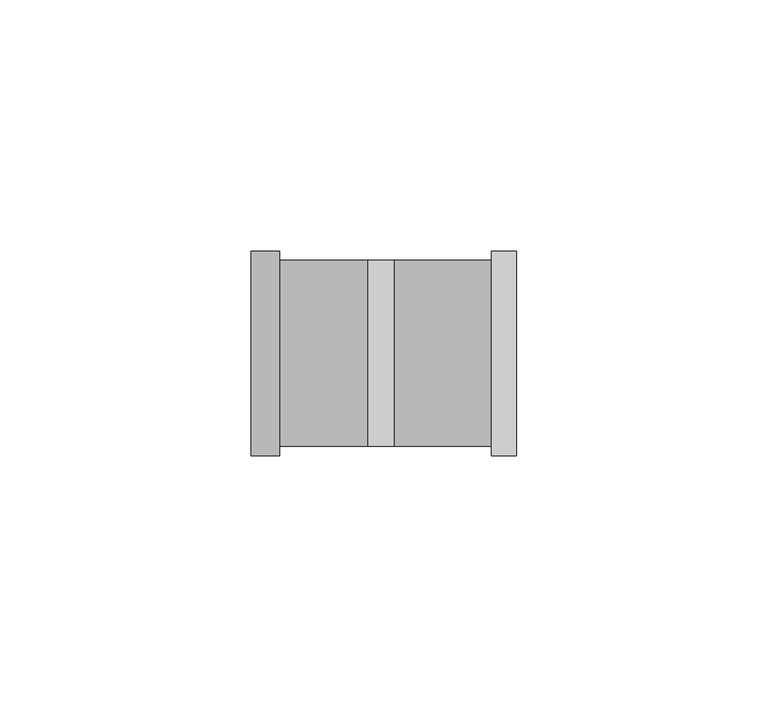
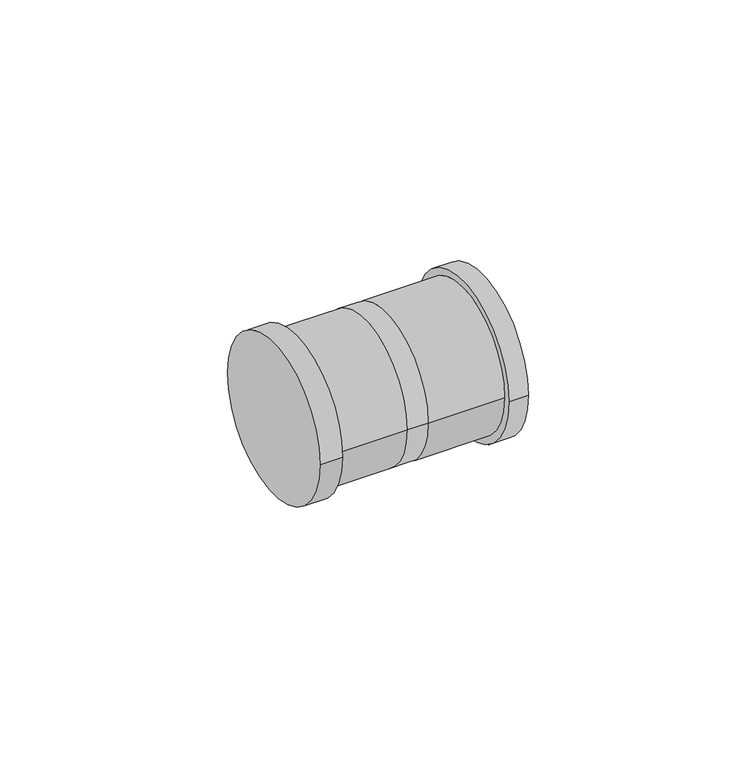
"""IFC4 building model written with IfcOpenShell, lengths in millimetres: pipe fitting geometry, Redutor de acoplamento - PVC - CW : Padrão."""

from ifc_helpers import new_model, si_unit, frame, origin, place, context, project, spatial, circle_curve, source, transform, mapped, element, save
from ifc_brep_helpers import plane_surface, cylinder_surface, advanced_brep


def pipe_fitting_36148165(model_context):
    return source(origin(), model_context, "Body", "AdvancedBrep", [
        advanced_brep(
        [(23.2876, 18.5, 0.0), (28.5292, 18.5, 0.0), (28.5292, -18.5, 0.0), (23.2876, -18.5, 0.0), (0.0, -20.35, 0.0), (0.0, 20.35, 0.0), (5.75, -18.5, 0.0), (5.75, 18.5, 0.0), (5.75, -20.35, 0.0), (5.75, 20.35, 0.0), (52.9292, 20.35, 0.0), (52.9292, -20.35, 0.0), (47.9292, -18.5, 0.0), (47.9292, 18.5, 0.0), (47.9292, 20.35, 0.0), (47.9292, -20.35, 0.0)],
        [
            (0, 1),
            (1, 2, circle_curve(frame((28.5292, 0.0, 0.0), z_axis=(-1.0, 0.0, 0.0), x_axis=(0.0, 0.0, -1.0)), 18.5)),
            (2, 3),
            (3, 0, circle_curve(frame((23.2876, 0.0, 0.0), z_axis=(1.0, 0.0, 0.0), x_axis=(0.0, 0.0, -1.0)), 18.5)),
            (0, 3, circle_curve(frame((23.2876, 0.0, 0.0), z_axis=(1.0, 0.0, 0.0), x_axis=(0.0, 0.0, 1.0)), 18.5)),
            (2, 1, circle_curve(frame((28.5292, 0.0, 0.0), z_axis=(-1.0, 0.0, 0.0), x_axis=(0.0, 0.0, 1.0)), 18.5)),
            (4, 5, circle_curve(frame((0.0, 0.0, 0.0), z_axis=(-1.0, 0.0, 0.0), x_axis=(0.0, 1.0, 0.0)), 20.35)),
            (5, 4, circle_curve(frame((0.0, 0.0, 0.0), z_axis=(-1.0, 0.0, 0.0), x_axis=(0.0, 1.0, 0.0)), 20.35)),
            (6, 3),
            (0, 7),
            (7, 6, circle_curve(frame((5.75, 0.0, 0.0), z_axis=(1.0, 0.0, 0.0), x_axis=(0.0, 1.0, 0.0)), 18.5)),
            (6, 7, circle_curve(frame((5.75, 0.0, 0.0), z_axis=(1.0, 0.0, 0.0), x_axis=(0.0, 1.0, 0.0)), 18.5)),
            (8, 9, circle_curve(frame((5.75, 0.0, 0.0), z_axis=(1.0, 0.0, 0.0), x_axis=(0.0, 1.0, 0.0)), 20.35)),
            (9, 8, circle_curve(frame((5.75, 0.0, 0.0), z_axis=(1.0, 0.0, 0.0), x_axis=(0.0, 1.0, 0.0)), 20.35)),
            (4, 8),
            (9, 5),
            (10, 11, circle_curve(frame((52.9292, 0.0, 0.0), z_axis=(1.0, 0.0, 0.0), x_axis=(0.0, -1.0, 0.0)), 20.35)),
            (11, 10, circle_curve(frame((52.9292, 0.0, 0.0), z_axis=(1.0, 0.0, 0.0), x_axis=(0.0, -1.0, 0.0)), 20.35)),
            (2, 12),
            (12, 13, circle_curve(frame((47.9292, 0.0, 0.0), z_axis=(-1.0, 0.0, 0.0), x_axis=(0.0, 1.0, 0.0)), 18.5)),
            (13, 1),
            (13, 12, circle_curve(frame((47.9292, 0.0, 0.0), z_axis=(-1.0, 0.0, 0.0), x_axis=(0.0, 1.0, 0.0)), 18.5)),
            (14, 15, circle_curve(frame((47.9292, 0.0, 0.0), z_axis=(-1.0, 0.0, 0.0), x_axis=(0.0, -1.0, 0.0)), 20.35)),
            (15, 14, circle_curve(frame((47.9292, 0.0, 0.0), z_axis=(-1.0, 0.0, 0.0), x_axis=(0.0, -1.0, 0.0)), 20.35)),
            (10, 14),
            (15, 11),
        ],
        [
            cylinder_surface(frame((23.2876, 0.0, 0.0), z_axis=(1.0, 0.0, 0.0), x_axis=(0.0, 0.0, -1.0)), 18.5),
            cylinder_surface(frame((23.2876, 0.0, 0.0), z_axis=(1.0, 0.0, 0.0), x_axis=(0.0, 0.0, 1.0)), 18.5),
            plane_surface(frame((0.0, 0.0, 0.0), z_axis=(-1.0, 0.0, 0.0), x_axis=(0.0, 0.0, 1.0))),
            cylinder_surface(frame((0.0, 0.0, 0.0), z_axis=(-1.0, 0.0, 0.0), x_axis=(0.0, 1.0, 0.0)), 18.5),
            plane_surface(frame((5.75, 0.0, 0.0), z_axis=(1.0, 0.0, 0.0), x_axis=(0.0, 0.0, 1.0))),
            cylinder_surface(frame((0.0, 0.0, 0.0), z_axis=(-1.0, 0.0, 0.0), x_axis=(0.0, 1.0, 0.0)), 20.35),
            plane_surface(frame((52.9292, 0.0, 0.0), z_axis=(1.0, 0.0, 0.0), x_axis=(0.0, 0.0, 1.0))),
            cylinder_surface(frame((28.5292, 0.0, 0.0), z_axis=(-1.0, 0.0, 0.0), x_axis=(0.0, 1.0, 0.0)), 18.5),
            plane_surface(frame((47.9292, 0.0, 0.0), z_axis=(-1.0, 0.0, 0.0), x_axis=(0.0, 0.0, 1.0))),
            cylinder_surface(frame((52.9292, 0.0, 0.0), z_axis=(1.0, 0.0, 0.0), x_axis=(0.0, -1.0, 0.0)), 20.35),
        ],
        [
            (0, [[1, 2, 3, 4]]),
            (1, [[-1, 5, -3, 6]]),
            (2, [[7, 8]]),
            (3, [[9, -5, 10, 11]]),
            (3, [[-9, 12, -10, -4]]),
            (4, [[13, 14], [-11, -12]]),
            (5, [[-7, 15, -14, 16]]),
            (5, [[-8, -16, -13, -15]]),
            (6, [[17, 18]]),
            (7, [[19, 20, 21, -6]]),
            (7, [[-19, -2, -21, 22]]),
            (8, [[23, 24], [-20, -22]]),
            (9, [[-17, 25, -24, 26]]),
            (9, [[-18, -26, -23, -25]]),
        ],
    ),
    ])


if __name__ == "__main__":
    model = new_model("IFC4")
    model_context = context("Model", 3, world=origin())
    ifc_project = project(units=[si_unit("LENGTHUNIT", "METRE", prefix="MILLI")], contexts=[model_context])
    site = spatial("IfcSite", under=ifc_project)
    building = spatial("IfcBuilding", under=site)
    placement = place(None, origin())
    pipe_fitting_shape = pipe_fitting_36148165(model_context)
    element("IfcPipeFitting", 1, ObjectType="Redutor de acoplamento - PVC - CW : Padrão", at=placement, inside=building, context=model_context, shape_type="MappedRepresentation", body=[
        mapped(pipe_fitting_shape, transform((0.0, 0.0, 0.0), x_axis=(1.0, 0.0, 0.0), y_axis=(0.0, 1.0, 0.0), z_axis=(0.0, 0.0, 1.0))),
    ])
    save(model, "model.ifc")
